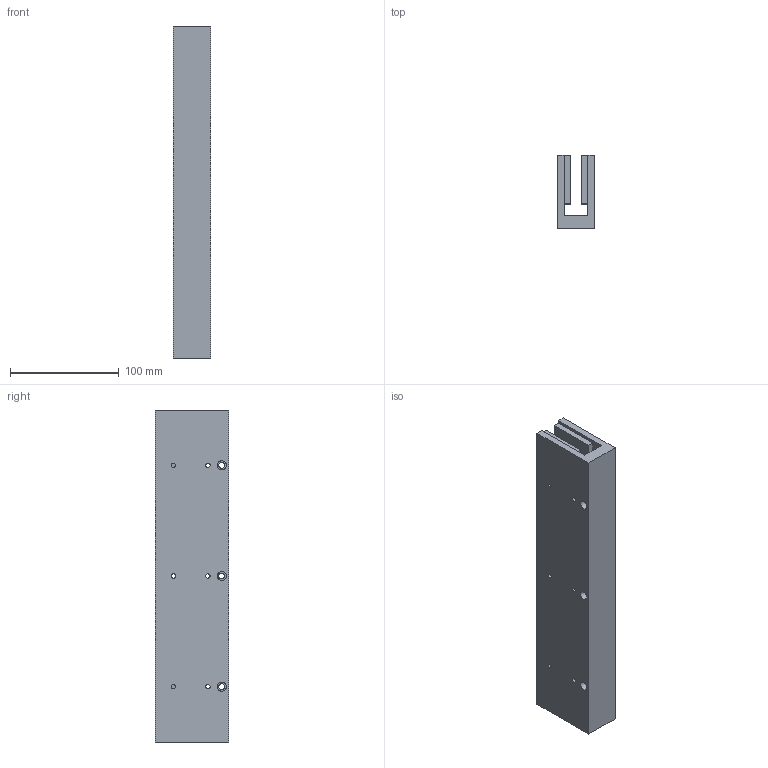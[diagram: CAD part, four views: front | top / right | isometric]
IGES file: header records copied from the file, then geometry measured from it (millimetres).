
Global section: file name: No Iges File Name specified; native system: Autodesk Inventor 2009; preprocessor: AutoDesk Inventor Iges Exporter R2009; author: je17857; date: 20091116.111447; units: inch
Bounding box: 34.29 x 67.31 x 304.8 mm (x, y, z)
Volume: 455725.5 mm3; surface area: 116313.9 mm2
Topology: 1 solids, 1 shells, 162 faces, 390 edges, 260 vertices
Faces by surface type: plane 114, bspline 48
